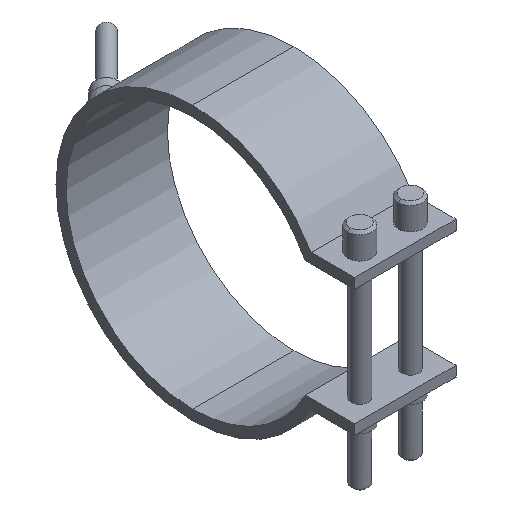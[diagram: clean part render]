
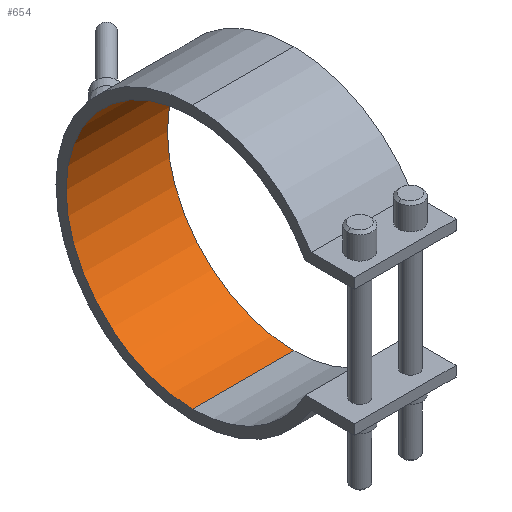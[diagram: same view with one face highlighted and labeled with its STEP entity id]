
A CAD part, isometric view. The second image highlights one B-rep face of the part: STEP entity #654.
In plain terms, the highlighted cylindrical face has radius 50 mm (diameter 100 mm), a partial arc.
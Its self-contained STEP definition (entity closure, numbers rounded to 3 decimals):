
#336=CARTESIAN_POINT('Vertex',(20.,0.,50.)) ;
#341=CARTESIAN_POINT('Axis2P3D Location',(20.,0.,0.)) ;
#345=CARTESIAN_POINT('Vertex',(20.,0.,-50.)) ;
#452=CARTESIAN_POINT('Vertex',(-20.,0.,-50.)) ;
#455=CARTESIAN_POINT('Axis2P3D Location',(-20.,0.,0.)) ;
#459=CARTESIAN_POINT('Vertex',(-20.,0.,50.)) ;
#626=CARTESIAN_POINT('Line Origine',(20.,0.,50.)) ;
#638=CARTESIAN_POINT('Axis2P3D Location',(20.,0.,0.)) ;
#643=CARTESIAN_POINT('Line Origine',(20.,0.,-50.)) ;
#342=DIRECTION('Axis2P3D Direction',(1.,0.,0.)) ;
#456=DIRECTION('Axis2P3D Direction',(1.,0.,0.)) ;
#627=DIRECTION('Vector Direction',(1.,0.,0.)) ;
#639=DIRECTION('Axis2P3D Direction',(1.,0.,-0.)) ;
#640=DIRECTION('Axis2P3D XDirection',(0.,0.,-1.)) ;
#644=DIRECTION('Vector Direction',(1.,0.,0.)) ;
#343=AXIS2_PLACEMENT_3D('Circle Axis2P3D',#341,#342,$) ;
#457=AXIS2_PLACEMENT_3D('Circle Axis2P3D',#455,#456,$) ;
#641=AXIS2_PLACEMENT_3D('Cylinder Axis2P3D',#638,#639,#640) ;
#649=ORIENTED_EDGE('',*,*,#347,.T.) ;
#650=ORIENTED_EDGE('',*,*,#630,.T.) ;
#651=ORIENTED_EDGE('',*,*,#461,.F.) ;
#652=ORIENTED_EDGE('',*,*,#647,.T.) ;
#628=VECTOR('Line Direction',#627,1.) ;
#645=VECTOR('Line Direction',#644,1.) ;
#654=ADVANCED_FACE('29100040',(#653),#642,.F.) ;
#344=CIRCLE('generated circle',#343,50.) ;
#458=CIRCLE('generated circle',#457,50.) ;
#642=CYLINDRICAL_SURFACE('generated cylinder',#641,50.) ;
#347=EDGE_CURVE('',#346,#337,#344,.T.) ;
#461=EDGE_CURVE('',#453,#460,#458,.T.) ;
#630=EDGE_CURVE('',#337,#460,#629,.F.) ;
#647=EDGE_CURVE('',#453,#346,#646,.T.) ;
#648=EDGE_LOOP('',(#649,#650,#651,#652)) ;
#653=FACE_OUTER_BOUND('',#648,.T.) ;
#629=LINE('Line',#626,#628) ;
#646=LINE('Line',#643,#645) ;
#337=VERTEX_POINT('',#336) ;
#346=VERTEX_POINT('',#345) ;
#453=VERTEX_POINT('',#452) ;
#460=VERTEX_POINT('',#459) ;
